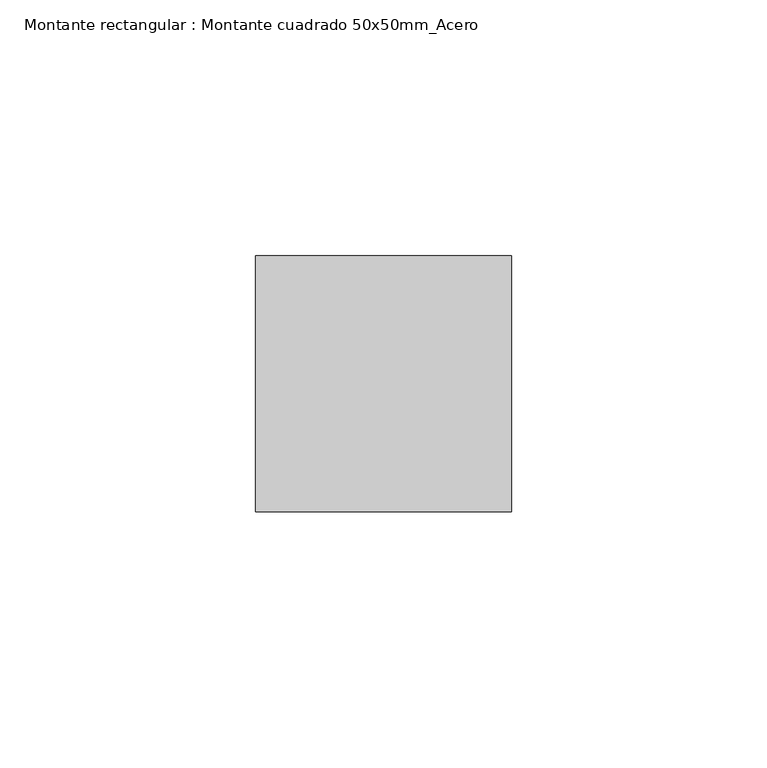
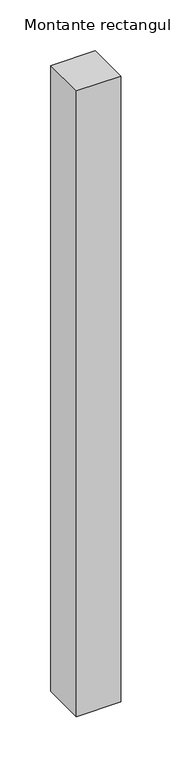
"""IFC4 building model written with IfcOpenShell, lengths in millimetres: member geometry, Montante rectangular : Montante cuadrado 50x50mm_Acero."""

from ifc_helpers import new_model, si_unit, frame, origin, place, context, project, spatial, polyline, outline, extrude, source, transform, mapped, element, save


def montante_rectangular_montante_cuadrado_50x50mm_acero_cc8d1400(model_context):
    return source(origin(), model_context, "Body", "SweptSolid", [
        extrude(outline(polyline([(-50.0, 0.0), (0.0, 0.0), (0.0, -50.0), (-50.0, -50.0), (-50.0, 0.0)])), frame((0.0, 0.0, -749.9999965), z_axis=(0.0, 0.0, 1.0), x_axis=(1.0, 0.0, 0.0)), (0.0, 0.0, 1.0), 749.9999965),
    ])


if __name__ == "__main__":
    model = new_model("IFC4")
    model_context = context("Model", 3, world=origin())
    ifc_project = project(units=[si_unit("LENGTHUNIT", "METRE", prefix="MILLI")], contexts=[model_context])
    site = spatial("IfcSite", under=ifc_project)
    building = spatial("IfcBuilding", under=site)
    placement = place(None, origin())
    montante_rectangular_montante_cuadrado_50x50mm_acero_shape = montante_rectangular_montante_cuadrado_50x50mm_acero_cc8d1400(model_context)
    element("IfcMember", 1, ObjectType="Montante rectangular : Montante cuadrado 50x50mm_Acero", at=placement, inside=building, context=model_context, shape_type="MappedRepresentation", body=[
        mapped(montante_rectangular_montante_cuadrado_50x50mm_acero_shape, transform((0.0, 0.0, 0.0), x_axis=(1.0, 0.0, 0.0), y_axis=(0.0, 1.0, 0.0), z_axis=(0.0, 0.0, 1.0))),
    ])
    save(model, "model.ifc")
